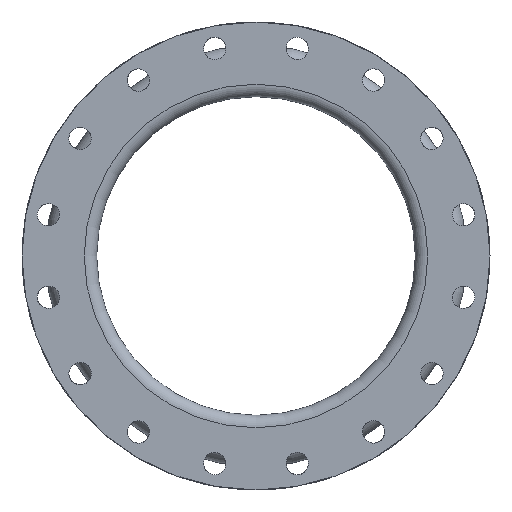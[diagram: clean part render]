
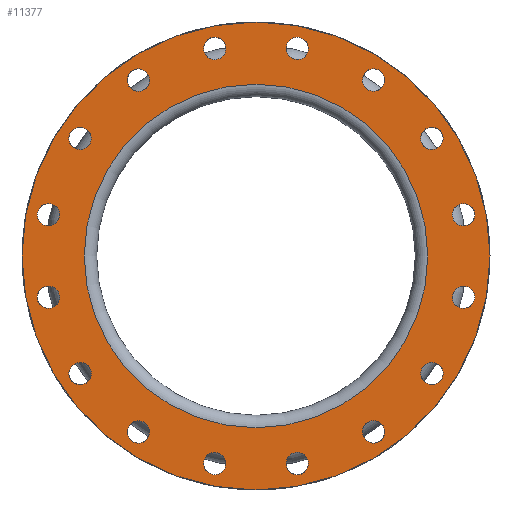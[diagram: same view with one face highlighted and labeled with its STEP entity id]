
A CAD part, left-side view. The second image highlights one B-rep face of the part: STEP entity #11377.
In plain terms, the highlighted planar face has unit normal (-1, 0, 0).
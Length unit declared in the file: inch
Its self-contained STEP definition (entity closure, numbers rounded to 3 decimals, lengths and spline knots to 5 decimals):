
#544=FACE_BOUND('',#1813,.T.);
#545=FACE_BOUND('',#1814,.T.);
#546=FACE_BOUND('',#1815,.T.);
#547=FACE_BOUND('',#1816,.T.);
#548=FACE_BOUND('',#1817,.T.);
#549=FACE_BOUND('',#1818,.T.);
#550=FACE_BOUND('',#1819,.T.);
#551=FACE_BOUND('',#1820,.T.);
#552=FACE_BOUND('',#1821,.T.);
#553=FACE_BOUND('',#1822,.T.);
#554=FACE_BOUND('',#1823,.T.);
#555=FACE_BOUND('',#1824,.T.);
#556=FACE_BOUND('',#1825,.T.);
#557=FACE_BOUND('',#1826,.T.);
#558=FACE_BOUND('',#1827,.T.);
#559=FACE_BOUND('',#1828,.T.);
#560=FACE_BOUND('',#1829,.T.);
#1088=FACE_OUTER_BOUND('',#1812,.T.);
#1812=EDGE_LOOP('',(#8692));
#1813=EDGE_LOOP('',(#8693));
#1814=EDGE_LOOP('',(#8694));
#1815=EDGE_LOOP('',(#8695));
#1816=EDGE_LOOP('',(#8696));
#1817=EDGE_LOOP('',(#8697));
#1818=EDGE_LOOP('',(#8698));
#1819=EDGE_LOOP('',(#8699));
#1820=EDGE_LOOP('',(#8700));
#1821=EDGE_LOOP('',(#8701));
#1822=EDGE_LOOP('',(#8702));
#1823=EDGE_LOOP('',(#8703));
#1824=EDGE_LOOP('',(#8704));
#1825=EDGE_LOOP('',(#8705));
#1826=EDGE_LOOP('',(#8706));
#1827=EDGE_LOOP('',(#8707));
#1828=EDGE_LOOP('',(#8708));
#1829=EDGE_LOOP('',(#8709));
#3941=CIRCLE('',#12344,0.5625);
#3943=CIRCLE('',#12347,0.5625);
#3945=CIRCLE('',#12350,0.5625);
#3947=CIRCLE('',#12353,0.5625);
#3949=CIRCLE('',#12356,0.5625);
#3951=CIRCLE('',#12359,0.5625);
#3953=CIRCLE('',#12362,0.5625);
#3955=CIRCLE('',#12365,0.5625);
#3957=CIRCLE('',#12368,0.5625);
#3959=CIRCLE('',#12371,0.5625);
#3961=CIRCLE('',#12374,0.5625);
#3963=CIRCLE('',#12377,0.5625);
#3965=CIRCLE('',#12380,0.5625);
#3967=CIRCLE('',#12383,0.5625);
#3969=CIRCLE('',#12386,0.5625);
#3971=CIRCLE('',#12389,0.5625);
#4019=CIRCLE('',#12468,8.625);
#4020=CIRCLE('',#12470,11.75);
#4943=VERTEX_POINT('',#18694);
#4945=VERTEX_POINT('',#18699);
#4947=VERTEX_POINT('',#18704);
#4949=VERTEX_POINT('',#18709);
#4951=VERTEX_POINT('',#18714);
#4953=VERTEX_POINT('',#18719);
#4955=VERTEX_POINT('',#18724);
#4957=VERTEX_POINT('',#18729);
#4959=VERTEX_POINT('',#18734);
#4961=VERTEX_POINT('',#18739);
#4963=VERTEX_POINT('',#18744);
#4965=VERTEX_POINT('',#18749);
#4967=VERTEX_POINT('',#18754);
#4969=VERTEX_POINT('',#18759);
#4971=VERTEX_POINT('',#18764);
#4973=VERTEX_POINT('',#18769);
#5021=VERTEX_POINT('',#18896);
#5022=VERTEX_POINT('',#18899);
#6285=EDGE_CURVE('',#4943,#4943,#3941,.T.);
#6287=EDGE_CURVE('',#4945,#4945,#3943,.T.);
#6289=EDGE_CURVE('',#4947,#4947,#3945,.T.);
#6291=EDGE_CURVE('',#4949,#4949,#3947,.T.);
#6293=EDGE_CURVE('',#4951,#4951,#3949,.T.);
#6295=EDGE_CURVE('',#4953,#4953,#3951,.T.);
#6297=EDGE_CURVE('',#4955,#4955,#3953,.T.);
#6299=EDGE_CURVE('',#4957,#4957,#3955,.T.);
#6301=EDGE_CURVE('',#4959,#4959,#3957,.T.);
#6303=EDGE_CURVE('',#4961,#4961,#3959,.T.);
#6305=EDGE_CURVE('',#4963,#4963,#3961,.T.);
#6307=EDGE_CURVE('',#4965,#4965,#3963,.T.);
#6309=EDGE_CURVE('',#4967,#4967,#3965,.T.);
#6311=EDGE_CURVE('',#4969,#4969,#3967,.T.);
#6313=EDGE_CURVE('',#4971,#4971,#3969,.T.);
#6315=EDGE_CURVE('',#4973,#4973,#3971,.T.);
#6363=EDGE_CURVE('',#5021,#5021,#4019,.T.);
#6364=EDGE_CURVE('',#5022,#5022,#4020,.T.);
#8692=ORIENTED_EDGE('',*,*,#6364,.F.);
#8693=ORIENTED_EDGE('',*,*,#6363,.T.);
#8694=ORIENTED_EDGE('',*,*,#6285,.T.);
#8695=ORIENTED_EDGE('',*,*,#6287,.T.);
#8696=ORIENTED_EDGE('',*,*,#6289,.T.);
#8697=ORIENTED_EDGE('',*,*,#6291,.T.);
#8698=ORIENTED_EDGE('',*,*,#6293,.T.);
#8699=ORIENTED_EDGE('',*,*,#6295,.T.);
#8700=ORIENTED_EDGE('',*,*,#6297,.T.);
#8701=ORIENTED_EDGE('',*,*,#6299,.T.);
#8702=ORIENTED_EDGE('',*,*,#6301,.T.);
#8703=ORIENTED_EDGE('',*,*,#6303,.T.);
#8704=ORIENTED_EDGE('',*,*,#6305,.T.);
#8705=ORIENTED_EDGE('',*,*,#6307,.T.);
#8706=ORIENTED_EDGE('',*,*,#6309,.T.);
#8707=ORIENTED_EDGE('',*,*,#6311,.T.);
#8708=ORIENTED_EDGE('',*,*,#6313,.T.);
#8709=ORIENTED_EDGE('',*,*,#6315,.T.);
#10362=PLANE('',#12469);
#11377=ADVANCED_FACE('',(#1088,#544,#545,#546,#547,#548,#549,#550,#551,
#552,#553,#554,#555,#556,#557,#558,#559,#560),#10362,.T.);
#12344=AXIS2_PLACEMENT_3D('',#18695,#14843,#14844);
#12347=AXIS2_PLACEMENT_3D('',#18700,#14849,#14850);
#12350=AXIS2_PLACEMENT_3D('',#18705,#14855,#14856);
#12353=AXIS2_PLACEMENT_3D('',#18710,#14861,#14862);
#12356=AXIS2_PLACEMENT_3D('',#18715,#14867,#14868);
#12359=AXIS2_PLACEMENT_3D('',#18720,#14873,#14874);
#12362=AXIS2_PLACEMENT_3D('',#18725,#14879,#14880);
#12365=AXIS2_PLACEMENT_3D('',#18730,#14885,#14886);
#12368=AXIS2_PLACEMENT_3D('',#18735,#14891,#14892);
#12371=AXIS2_PLACEMENT_3D('',#18740,#14897,#14898);
#12374=AXIS2_PLACEMENT_3D('',#18745,#14903,#14904);
#12377=AXIS2_PLACEMENT_3D('',#18750,#14909,#14910);
#12380=AXIS2_PLACEMENT_3D('',#18755,#14915,#14916);
#12383=AXIS2_PLACEMENT_3D('',#18760,#14921,#14922);
#12386=AXIS2_PLACEMENT_3D('',#18765,#14927,#14928);
#12389=AXIS2_PLACEMENT_3D('',#18770,#14933,#14934);
#12468=AXIS2_PLACEMENT_3D('',#18897,#15091,#15092);
#12469=AXIS2_PLACEMENT_3D('',#18898,#15093,#15094);
#12470=AXIS2_PLACEMENT_3D('',#18900,#15095,#15096);
#14843=DIRECTION('center_axis',(1.,0.,0.));
#14844=DIRECTION('ref_axis',(0.,-0.924,0.383));
#14849=DIRECTION('center_axis',(1.,0.,0.));
#14850=DIRECTION('ref_axis',(0.,-0.707,0.707));
#14855=DIRECTION('center_axis',(1.,0.,0.));
#14856=DIRECTION('ref_axis',(0.,-0.383,0.924));
#14861=DIRECTION('center_axis',(1.,0.,0.));
#14862=DIRECTION('ref_axis',(0.,0.,
1.));
#14867=DIRECTION('center_axis',(1.,0.,0.));
#14868=DIRECTION('ref_axis',(0.,0.383,0.924));
#14873=DIRECTION('center_axis',(1.,0.,0.));
#14874=DIRECTION('ref_axis',(0.,0.707,0.707));
#14879=DIRECTION('center_axis',(1.,0.,0.));
#14880=DIRECTION('ref_axis',(0.,0.924,0.383));
#14885=DIRECTION('center_axis',(1.,0.,0.));
#14886=DIRECTION('ref_axis',(0.,1.,0.));
#14891=DIRECTION('center_axis',(1.,0.,0.));
#14892=DIRECTION('ref_axis',(0.,0.924,-0.383));
#14897=DIRECTION('center_axis',(1.,0.,0.));
#14898=DIRECTION('ref_axis',(0.,0.707,-0.707));
#14903=DIRECTION('center_axis',(1.,0.,0.));
#14904=DIRECTION('ref_axis',(0.,0.383,-0.924));
#14909=DIRECTION('center_axis',(1.,0.,0.));
#14910=DIRECTION('ref_axis',(0.,0.,
-1.));
#14915=DIRECTION('center_axis',(1.,0.,0.));
#14916=DIRECTION('ref_axis',(0.,-0.383,-0.924));
#14921=DIRECTION('center_axis',(1.,0.,0.));
#14922=DIRECTION('ref_axis',(0.,-0.707,-0.707));
#14927=DIRECTION('center_axis',(1.,0.,0.));
#14928=DIRECTION('ref_axis',(0.,-0.924,-0.383));
#14933=DIRECTION('center_axis',(1.,0.,0.));
#14934=DIRECTION('ref_axis',(0.,-1.,0.));
#15091=DIRECTION('center_axis',(1.,0.,0.));
#15092=DIRECTION('ref_axis',(0.,0.,-1.));
#15093=DIRECTION('center_axis',(-1.,0.,0.));
#15094=DIRECTION('ref_axis',(0.,0.,1.));
#15095=DIRECTION('center_axis',(1.,0.,0.));
#15096=DIRECTION('ref_axis',(0.,0.,-1.));
#18694=CARTESIAN_POINT('',(-8.,9.35405,-6.11819));
#18695=CARTESIAN_POINT('Origin',(-8.,8.83436,-5.90293));
#18699=CARTESIAN_POINT('',(-8.,6.30068,-9.23211));
#18700=CARTESIAN_POINT('Origin',(-8.,5.90293,-8.83436));
#18704=CARTESIAN_POINT('',(-8.,2.28809,-10.94053));
#18705=CARTESIAN_POINT('Origin',(-8.,2.07283,-10.42084));
#18709=CARTESIAN_POINT('',(-8.,-2.07283,-10.98334));
#18710=CARTESIAN_POINT('Origin',(-8.,-2.07283,-10.42084));
#18714=CARTESIAN_POINT('',(-8.,-6.11819,-9.35405));
#18715=CARTESIAN_POINT('Origin',(-8.,-5.90293,-8.83436));
#18719=CARTESIAN_POINT('',(-8.,-9.23211,-6.30068));
#18720=CARTESIAN_POINT('Origin',(-8.,-8.83436,-5.90293));
#18724=CARTESIAN_POINT('',(-8.,-10.94053,-2.28809));
#18725=CARTESIAN_POINT('Origin',(-8.,-10.42084,-2.07283));
#18729=CARTESIAN_POINT('',(-8.,-10.98334,2.07283));
#18730=CARTESIAN_POINT('Origin',(-8.,-10.42084,2.07283));
#18734=CARTESIAN_POINT('',(-8.,-9.35405,6.11819));
#18735=CARTESIAN_POINT('Origin',(-8.,-8.83436,5.90293));
#18739=CARTESIAN_POINT('',(-8.,-6.30068,9.23211));
#18740=CARTESIAN_POINT('Origin',(-8.,-5.90293,8.83436));
#18744=CARTESIAN_POINT('',(-8.,-2.28809,10.94053));
#18745=CARTESIAN_POINT('Origin',(-8.,-2.07283,10.42084));
#18749=CARTESIAN_POINT('',(-8.,2.07283,10.98334));
#18750=CARTESIAN_POINT('Origin',(-8.,2.07283,10.42084));
#18754=CARTESIAN_POINT('',(-8.,6.11819,9.35405));
#18755=CARTESIAN_POINT('Origin',(-8.,5.90293,8.83436));
#18759=CARTESIAN_POINT('',(-8.,9.23211,6.30068));
#18760=CARTESIAN_POINT('Origin',(-8.,8.83436,5.90293));
#18764=CARTESIAN_POINT('',(-8.,10.94053,2.28809));
#18765=CARTESIAN_POINT('Origin',(-8.,10.42084,2.07283));
#18769=CARTESIAN_POINT('',(-8.,10.98334,-2.07283));
#18770=CARTESIAN_POINT('Origin',(-8.,10.42084,-2.07283));
#18896=CARTESIAN_POINT('',(-8.,8.625,0.));
#18897=CARTESIAN_POINT('Origin',(-8.,0.,0.));
#18898=CARTESIAN_POINT('Origin',(-8.,11.75,0.));
#18899=CARTESIAN_POINT('',(-8.,11.75,0.));
#18900=CARTESIAN_POINT('Origin',(-8.,0.,0.));
